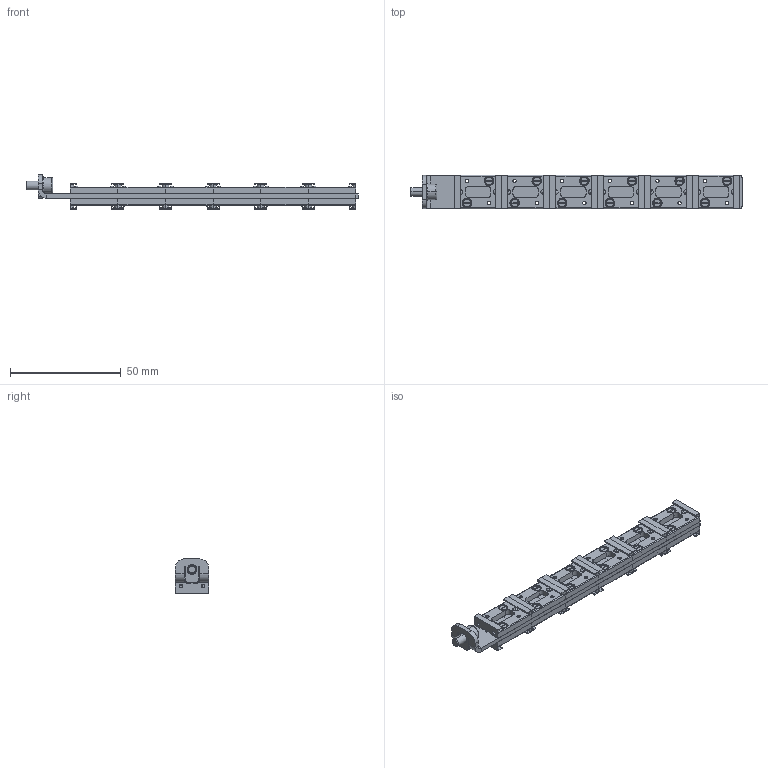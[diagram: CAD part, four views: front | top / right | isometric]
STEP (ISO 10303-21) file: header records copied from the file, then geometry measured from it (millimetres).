
FILE_DESCRIPTION(('Confidential','CAx-IF Rec.Pracs.--- Model Styling and Organization---1.2---2011-12-15','CAx-IF Rec.Pracs.--- Geometric and Assembly Validation Properties ---3.1---2011-10-19'),'2;1');
FILE_NAME('W:\KONSTRUKTION\PRODUCTS\SC\SCOM\SCOM2X6\SCOM2X6_Rev_B.stp','2025-10-21T09:14:40+00:00',('none'),('Ferrovac AG'),'CATIA Version 5 Release 21 SP 6 (IN-10)','CATIA V5 STEP AP214 Edition 3','PROPERTY OF FERROVAC AG');
FILE_SCHEMA(('AUTOMOTIVE_DESIGN { 1 0 10303 214 3 1 1 1 }'));
Length unit declared in the file: millimetre
Products named in the file (10): SCOM2X6; 18622-0144.5; RECOM(ST); RECOM; 1193; 41002; 41005; 17104008; 32104000; 18102006
Assembly tree (32 placements, depth 4):
  SCOM2X6
    18622-0144.5
    RECOM(ST)  x12
      RECOM
        1193  x2
        41002
        41005
    17104008
    32104000
    18102006  x12
Bounding box: 149.95 x 15 x 15.45 mm (x, y, z)
Volume: 14075.5 mm3; surface area: 24920 mm2
Topology: 63 solids, 63 shells, 1568 faces, 4577 edges, 2941 vertices
Faces by surface type: plane 661, cylinder 651, cone 128, torus 80, sphere 48
Entity records: 8904 total; most frequent: CARTESIAN_POINT 1839, ORIENTED_EDGE 1386, DIRECTION 1178, EDGE_CURVE 693, AXIS2_PLACEMENT_3D 519, VERTEX_POINT 453, VECTOR 387, LINE 387
